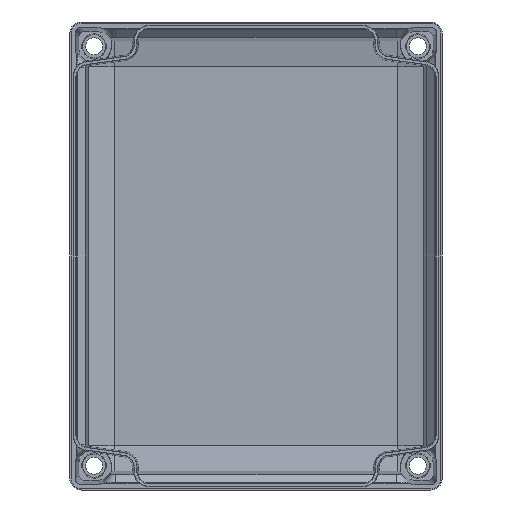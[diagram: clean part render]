
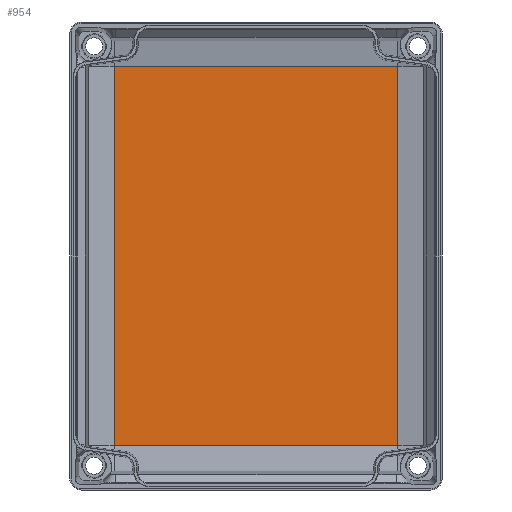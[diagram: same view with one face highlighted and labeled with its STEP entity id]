
A CAD part, front view. The second image highlights one B-rep face of the part: STEP entity #954.
In plain terms, the highlighted planar face has unit normal (0, -1, 0).
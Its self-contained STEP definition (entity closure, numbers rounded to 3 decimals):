
#73 = DIRECTION ( 'NONE',  ( 0., 0., -1. ) ) ;
#733 = VECTOR ( 'NONE', #2248, 1000. ) ;
#774 = ORIENTED_EDGE ( 'NONE', *, *, #1469, .F. ) ;
#954 = ADVANCED_FACE ( 'NONE', ( #4262 ), #1992, .F. ) ;
#1332 = DIRECTION ( 'NONE',  ( 0., 1., 0. ) ) ;
#1469 = EDGE_CURVE ( 'NONE', #2234, #1964, #5338, .T. ) ;
#1964 = VERTEX_POINT ( 'NONE', #2471 ) ;
#1992 = PLANE ( 'NONE',  #7485 ) ;
#2062 = CARTESIAN_POINT ( 'NONE',  ( 0., 66.7, 0. ) ) ;
#2186 = EDGE_CURVE ( 'NONE', #3938, #2234, #9862, .T. ) ;
#2234 = VERTEX_POINT ( 'NONE', #8086 ) ;
#2248 = DIRECTION ( 'NONE',  ( -1., 0., 0. ) ) ;
#2471 = CARTESIAN_POINT ( 'NONE',  ( -72.714, 66.7, -97.214 ) ) ;
#3652 = VECTOR ( 'NONE', #73, 1000. ) ;
#3938 = VERTEX_POINT ( 'NONE', #9547 ) ;
#4162 = CARTESIAN_POINT ( 'NONE',  ( 0., 66.7, -97.211 ) ) ;
#4262 = FACE_OUTER_BOUND ( 'NONE', #9594, .T. ) ;
#4333 = CARTESIAN_POINT ( 'NONE',  ( 72.711, 66.7, 0. ) ) ;
#4448 = DIRECTION ( 'NONE',  ( 0., 0., 1. ) ) ;
#4528 = EDGE_CURVE ( 'NONE', #6505, #1964, #7247, .T. ) ;
#4918 = DIRECTION ( 'NONE',  ( -1., 0., 0. ) ) ;
#5159 = VECTOR ( 'NONE', #8283, 1000. ) ;
#5338 = LINE ( 'NONE', #4162, #7899 ) ;
#6165 = CARTESIAN_POINT ( 'NONE',  ( 0., 66.7, 97.211 ) ) ;
#6505 = VERTEX_POINT ( 'NONE', #9035 ) ;
#6567 = EDGE_CURVE ( 'NONE', #3938, #6505, #8038, .T. ) ;
#7247 = LINE ( 'NONE', #7505, #5159 ) ;
#7461 = ORIENTED_EDGE ( 'NONE', *, *, #6567, .T. ) ;
#7485 = AXIS2_PLACEMENT_3D ( 'NONE', #2062, #1332, #4448 ) ;
#7505 = CARTESIAN_POINT ( 'NONE',  ( -72.711, 66.7, 0. ) ) ;
#7899 = VECTOR ( 'NONE', #4918, 1000. ) ;
#8038 = LINE ( 'NONE', #6165, #733 ) ;
#8086 = CARTESIAN_POINT ( 'NONE',  ( 72.714, 66.7, -97.214 ) ) ;
#8283 = DIRECTION ( 'NONE',  ( 0., 0., -1. ) ) ;
#9035 = CARTESIAN_POINT ( 'NONE',  ( -72.714, 66.7, 97.214 ) ) ;
#9174 = ORIENTED_EDGE ( 'NONE', *, *, #2186, .F. ) ;
#9547 = CARTESIAN_POINT ( 'NONE',  ( 72.714, 66.7, 97.214 ) ) ;
#9594 = EDGE_LOOP ( 'NONE', ( #7461, #9872, #774, #9174 ) ) ;
#9862 = LINE ( 'NONE', #4333, #3652 ) ;
#9872 = ORIENTED_EDGE ( 'NONE', *, *, #4528, .T. ) ;
